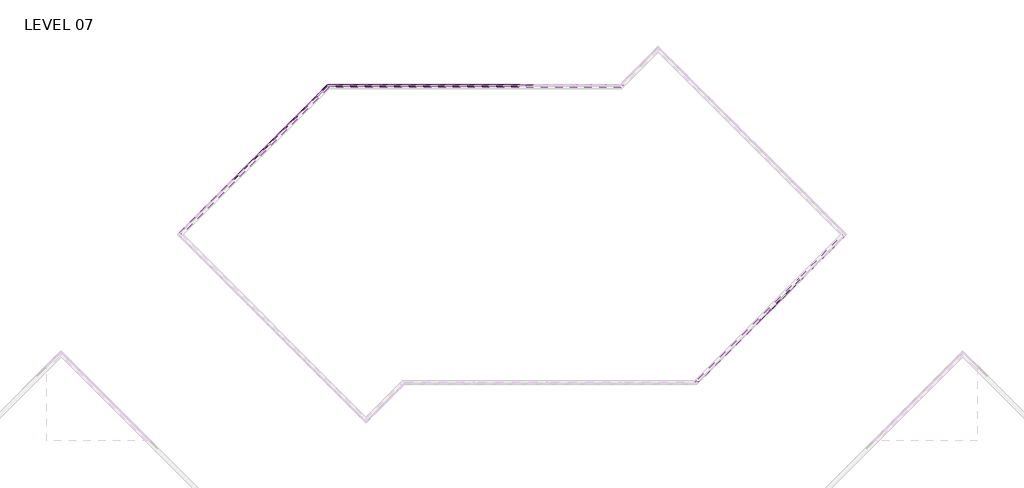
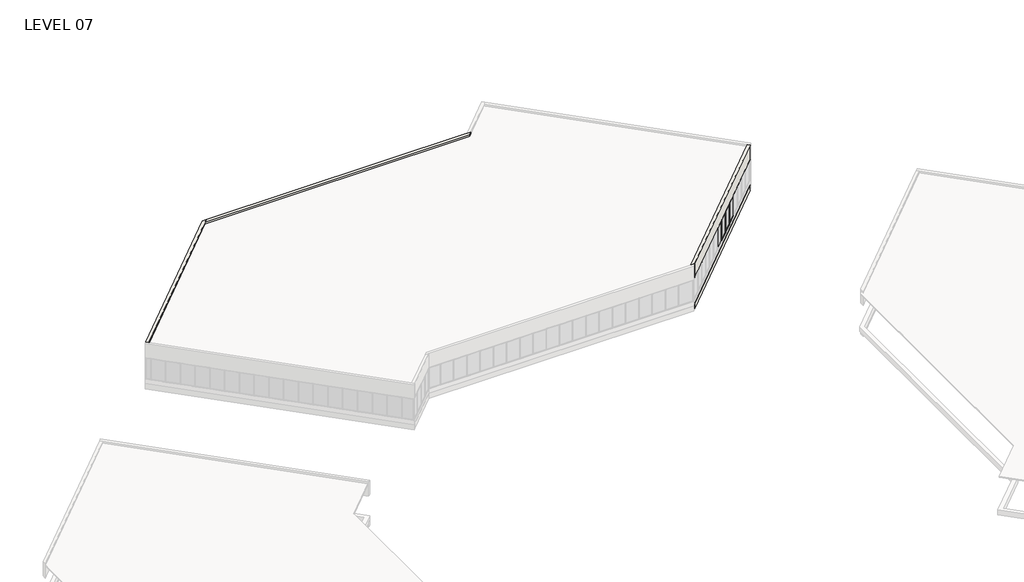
# One storey, part 15 of 18: 77 members, 27 plates, 6 walls.
"""IFC4 building model written with IfcOpenShell, lengths in millimetres."""

from ifc_helpers import new_model, si_unit, origin, place, context, project, spatial, faceted_brep, transform, mapped, element, save
from components import member_5247f267, member_e44af9ab, member_800970d4, member_1bd862b2, member_7ca0f77f, plate_67294edd, plate_aaac5d3d, plate_bbcbcabf, plate_3fb62afd, plate_e0fd5134

model = new_model("IFC4")

# Units and contexts
model_context = context("Model", 3, world=origin())
ifc_project = project(units=[si_unit("LENGTHUNIT", "METRE", prefix="MILLI")], contexts=[model_context])

# Site, building, storey
site = spatial("IfcSite", under=ifc_project)
building = spatial("IfcBuilding", under=site)
storey = spatial("IfcBuildingStorey", under=building, Name="LEVEL 07", Elevation=23368.0)

# Members
placement = place(None, origin())
member_shape = member_5247f267(model_context)
element("IfcMember", 1, ObjectType="Rectangular Mullion : 2\" x 4.5\" rectangular", at=placement, inside=storey, context=model_context, shape_type="MappedRepresentation", body=[
    mapped(member_shape, transform((30562.55, 120127.9523049, 23368.0), x_axis=(0.0, 0.0, -1.0), y_axis=(0.0, 1.0, 0.0), z_axis=(1.0, 0.0, 0.0))),
])
element("IfcMember", 2, ObjectType="Rectangular Mullion : 2\" x 4.5\" rectangular", at=placement, inside=storey, context=model_context, shape_type="MappedRepresentation", body=[
    mapped(member_shape, transform((29038.55, 120127.9523049, 23368.0), x_axis=(0.0, 0.0, -1.0), y_axis=(0.0, 1.0, 0.0), z_axis=(1.0, 0.0, 0.0))),
])
element("IfcMember", 3, ObjectType="Rectangular Mullion : 2\" x 4.5\" rectangular", at=placement, inside=storey, context=model_context, shape_type="MappedRepresentation", body=[
    mapped(member_shape, transform((27514.55, 120127.9523049, 23368.0), x_axis=(0.0, 0.0, -1.0), y_axis=(0.0, 1.0, 0.0), z_axis=(1.0, 0.0, 0.0))),
])
element("IfcMember", 4, ObjectType="Rectangular Mullion : 2\" x 4.5\" rectangular", at=placement, inside=storey, context=model_context, shape_type="MappedRepresentation", body=[
    mapped(member_shape, transform((24466.55, 120127.9523049, 23368.0), x_axis=(0.0, 0.0, -1.0), y_axis=(0.0, 1.0, 0.0), z_axis=(1.0, 0.0, 0.0))),
])
element("IfcMember", 5, ObjectType="Rectangular Mullion : 2\" x 4.5\" rectangular", at=placement, inside=storey, context=model_context, shape_type="MappedRepresentation", body=[
    mapped(member_shape, transform((22942.55, 120127.9523049, 23368.0), x_axis=(0.0, 0.0, -1.0), y_axis=(0.0, 1.0, 0.0), z_axis=(1.0, 0.0, 0.0))),
])
element("IfcMember", 6, ObjectType="Rectangular Mullion : 2\" x 4.5\" rectangular", at=placement, inside=storey, context=model_context, shape_type="MappedRepresentation", body=[
    mapped(member_shape, transform((19894.55, 120127.9523049, 23368.0), x_axis=(0.0, 0.0, -1.0), y_axis=(0.0, 1.0, 0.0), z_axis=(1.0, 0.0, 0.0))),
])
element("IfcMember", 7, ObjectType="Rectangular Mullion : 2\" x 4.5\" rectangular", at=placement, inside=storey, context=model_context, shape_type="MappedRepresentation", body=[
    mapped(member_shape, transform((15322.55, 120127.9523049, 23368.0), x_axis=(0.0, 0.0, -1.0), y_axis=(0.0, 1.0, 0.0), z_axis=(1.0, 0.0, 0.0))),
])
element("IfcMember", 8, ObjectType="Rectangular Mullion : 2\" x 4.5\" rectangular", at=placement, inside=storey, context=model_context, shape_type="MappedRepresentation", body=[
    mapped(member_shape, transform((13798.55, 120127.9523049, 23368.0), x_axis=(0.0, 0.0, -1.0), y_axis=(0.0, 1.0, 0.0), z_axis=(1.0, 0.0, 0.0))),
])
element("IfcMember", 9, ObjectType="Rectangular Mullion : 2\" x 4.5\" rectangular", at=placement, inside=storey, context=model_context, shape_type="MappedRepresentation", body=[
    mapped(member_shape, transform((21418.55, 120127.9523049, 23368.0), x_axis=(0.0, 0.0, -1.0), y_axis=(0.0, 1.0, 0.0), z_axis=(1.0, 0.0, 0.0))),
])
element("IfcMember", 10, ObjectType="Rectangular Mullion : 2\" x 4.5\" rectangular", at=placement, inside=storey, context=model_context, shape_type="MappedRepresentation", body=[
    mapped(member_shape, transform((25990.55, 120127.9523049, 23368.0), x_axis=(0.0, 0.0, -1.0), y_axis=(0.0, 1.0, 0.0), z_axis=(1.0, 0.0, 0.0))),
])
element("IfcMember", 11, ObjectType="Rectangular Mullion : 2\" x 4.5\" rectangular", at=placement, inside=storey, context=model_context, shape_type="MappedRepresentation", body=[
    mapped(member_shape, transform((18370.55, 120127.9523049, 23368.0), x_axis=(0.0, 0.0, -1.0), y_axis=(0.0, 1.0, 0.0), z_axis=(1.0, 0.0, 0.0))),
])
element("IfcMember", 12, ObjectType="Rectangular Mullion : 2\" x 4.5\" rectangular", at=placement, inside=storey, context=model_context, shape_type="MappedRepresentation", body=[
    mapped(member_shape, transform((16846.55, 120127.9523049, 23368.0), x_axis=(0.0, 0.0, -1.0), y_axis=(0.0, 1.0, 0.0), z_axis=(1.0, 0.0, 0.0))),
])
element("IfcMember", 13, ObjectType="Rectangular Mullion : 2\" x 4.5\" rectangular", at=placement, inside=storey, context=model_context, shape_type="MappedRepresentation", body=[
    mapped(member_shape, transform((9397.6593581, 118915.3677986, 23368.0), x_axis=(0.0, 0.0, -1.0), y_axis=(-0.7071067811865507, 0.7071067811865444, 0.0), z_axis=(0.7071067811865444, 0.7071067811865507, 0.0))),
])
element("IfcMember", 14, ObjectType="Rectangular Mullion : 2\" x 4.5\" rectangular", at=placement, inside=storey, context=model_context, shape_type="MappedRepresentation", body=[
    mapped(member_shape, transform((8320.0286235, 117837.7370641, 23368.0), x_axis=(0.0, 0.0, -1.0), y_axis=(-0.7071067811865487, 0.7071067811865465, 0.0), z_axis=(0.7071067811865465, 0.7071067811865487, 0.0))),
])
element("IfcMember", 15, ObjectType="Rectangular Mullion : 2\" x 4.5\" rectangular", at=placement, inside=storey, context=model_context, shape_type="MappedRepresentation", body=[
    mapped(member_shape, transform((7242.397889, 116760.1063296, 23368.0), x_axis=(0.0, 0.0, -1.0), y_axis=(-0.7071067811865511, 0.707106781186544, 0.0), z_axis=(0.707106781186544, 0.7071067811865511, 0.0))),
])
element("IfcMember", 16, ObjectType="Rectangular Mullion : 2\" x 4.5\" rectangular", at=placement, inside=storey, context=model_context, shape_type="MappedRepresentation", body=[
    mapped(member_shape, transform((6164.7671545, 115682.475595, 23368.0), x_axis=(0.0, 0.0, -1.0), y_axis=(-0.7071067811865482, 0.7071067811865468, 0.0), z_axis=(0.7071067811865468, 0.7071067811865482, 0.0))),
])
element("IfcMember", 17, ObjectType="Rectangular Mullion : 2\" x 4.5\" rectangular", at=placement, inside=storey, context=model_context, shape_type="MappedRepresentation", body=[
    mapped(member_shape, transform((4009.5056854, 113527.214126, 23368.0), x_axis=(0.0, 0.0, -1.0), y_axis=(-0.7071067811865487, 0.7071067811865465, 0.0), z_axis=(0.7071067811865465, 0.7071067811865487, 0.0))),
])
element("IfcMember", 18, ObjectType="Rectangular Mullion : 2\" x 4.5\" rectangular", at=placement, inside=storey, context=model_context, shape_type="MappedRepresentation", body=[
    mapped(member_shape, transform((2931.8749509, 112449.5833914, 23368.0), x_axis=(0.0, 0.0, -1.0), y_axis=(-0.7071067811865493, 0.7071067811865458, 0.0), z_axis=(0.7071067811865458, 0.7071067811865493, 0.0))),
])
element("IfcMember", 19, ObjectType="Rectangular Mullion : 2\" x 4.5\" rectangular", at=placement, inside=storey, context=model_context, shape_type="MappedRepresentation", body=[
    mapped(member_shape, transform((1854.2442164, 111371.9526569, 23368.0), x_axis=(0.0, 0.0, -1.0), y_axis=(-0.7071067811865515, 0.7071067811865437, 0.0), z_axis=(0.7071067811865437, 0.7071067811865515, 0.0))),
])
element("IfcMember", 20, ObjectType="Rectangular Mullion : 2\" x 4.5\" rectangular", at=placement, inside=storey, context=model_context, shape_type="MappedRepresentation", body=[
    mapped(member_shape, transform((5087.1364199, 114604.8448605, 23368.0), x_axis=(0.0, 0.0, -1.0), y_axis=(-0.7071067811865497, 0.7071067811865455, 0.0), z_axis=(0.7071067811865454, 0.7071067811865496, 0.0))),
])
element("IfcMember", 21, ObjectType="Rectangular Mullion : 2\" x 4.5\" rectangular", at=placement, inside=storey, context=model_context, shape_type="MappedRepresentation", body=[
    mapped(member_shape, transform((56719.8907816, 96634.0369509, 23368.0), x_axis=(0.0, 0.0, -1.0), y_axis=(0.7071067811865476, -0.7071067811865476, 0.0), z_axis=(-0.7071067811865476, -0.7071067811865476, 0.0))),
])
element("IfcMember", 22, ObjectType="Rectangular Mullion : 2\" x 4.5\" rectangular", at=placement, inside=storey, context=model_context, shape_type="MappedRepresentation", body=[
    mapped(member_shape, transform((57797.5067145, 97711.6528837, 23368.0), x_axis=(0.0, 0.0, -1.0), y_axis=(0.7071067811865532, -0.7071067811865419, 0.0), z_axis=(-0.7071067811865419, -0.7071067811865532, 0.0))),
])
element("IfcMember", 23, ObjectType="Rectangular Mullion : 2\" x 4.5\" rectangular", at=placement, inside=storey, context=model_context, shape_type="MappedRepresentation", body=[
    mapped(member_shape, transform((58875.1226473, 98789.2688165, 23368.0), x_axis=(0.0, 0.0, -1.0), y_axis=(0.7071067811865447, -0.7071067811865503, 0.0), z_axis=(-0.7071067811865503, -0.7071067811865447, 0.0))),
])
element("IfcMember", 24, ObjectType="Rectangular Mullion : 2\" x 4.5\" rectangular", at=placement, inside=storey, context=model_context, shape_type="MappedRepresentation", body=[
    mapped(member_shape, transform((30613.35, 120127.9523049, 25958.8), x_axis=(0.0, 0.0, 1.0), y_axis=(0.0, 1.0, 0.0), z_axis=(-1.0, 0.0, 0.0))),
])
element("IfcMember", 25, ObjectType="Rectangular Mullion : 2\" x 4.5\" rectangular", at=placement, inside=storey, context=model_context, shape_type="MappedRepresentation", body=[
    mapped(member_shape, transform((29089.35, 120127.9523049, 25958.8), x_axis=(0.0, 0.0, 1.0), y_axis=(0.0, 1.0, 0.0), z_axis=(-1.0, 0.0, 0.0))),
])
element("IfcMember", 26, ObjectType="Rectangular Mullion : 2\" x 4.5\" rectangular", at=placement, inside=storey, context=model_context, shape_type="MappedRepresentation", body=[
    mapped(member_shape, transform((27565.35, 120127.9523049, 25958.8), x_axis=(0.0, 0.0, 1.0), y_axis=(0.0, 1.0, 0.0), z_axis=(-1.0, 0.0, 0.0))),
])
element("IfcMember", 27, ObjectType="Rectangular Mullion : 2\" x 4.5\" rectangular", at=placement, inside=storey, context=model_context, shape_type="MappedRepresentation", body=[
    mapped(member_shape, transform((24517.35, 120127.9523049, 25958.8), x_axis=(0.0, 0.0, 1.0), y_axis=(0.0, 1.0, 0.0), z_axis=(-1.0, 0.0, 0.0))),
])
element("IfcMember", 28, ObjectType="Rectangular Mullion : 2\" x 4.5\" rectangular", at=placement, inside=storey, context=model_context, shape_type="MappedRepresentation", body=[
    mapped(member_shape, transform((22993.35, 120127.9523049, 25958.8), x_axis=(0.0, 0.0, 1.0), y_axis=(0.0, 1.0, 0.0), z_axis=(-1.0, 0.0, 0.0))),
])
element("IfcMember", 29, ObjectType="Rectangular Mullion : 2\" x 4.5\" rectangular", at=placement, inside=storey, context=model_context, shape_type="MappedRepresentation", body=[
    mapped(member_shape, transform((19945.35, 120127.9523049, 25958.8), x_axis=(0.0, 0.0, 1.0), y_axis=(0.0, 1.0, 0.0), z_axis=(-1.0, 0.0, 0.0))),
])
element("IfcMember", 30, ObjectType="Rectangular Mullion : 2\" x 4.5\" rectangular", at=placement, inside=storey, context=model_context, shape_type="MappedRepresentation", body=[
    mapped(member_shape, transform((15373.35, 120127.9523049, 25958.8), x_axis=(0.0, 0.0, 1.0), y_axis=(0.0, 1.0, 0.0), z_axis=(-1.0, 0.0, 0.0))),
])
element("IfcMember", 31, ObjectType="Rectangular Mullion : 2\" x 4.5\" rectangular", at=placement, inside=storey, context=model_context, shape_type="MappedRepresentation", body=[
    mapped(member_shape, transform((13849.35, 120127.9523049, 25958.8), x_axis=(0.0, 0.0, 1.0), y_axis=(0.0, 1.0, 0.0), z_axis=(-1.0, 0.0, 0.0))),
])
element("IfcMember", 32, ObjectType="Rectangular Mullion : 2\" x 4.5\" rectangular", at=placement, inside=storey, context=model_context, shape_type="MappedRepresentation", body=[
    mapped(member_shape, transform((21469.35, 120127.9523049, 25958.8), x_axis=(0.0, 0.0, 1.0), y_axis=(0.0, 1.0, 0.0), z_axis=(-1.0, 0.0, 0.0))),
])
element("IfcMember", 33, ObjectType="Rectangular Mullion : 2\" x 4.5\" rectangular", at=placement, inside=storey, context=model_context, shape_type="MappedRepresentation", body=[
    mapped(member_shape, transform((26041.35, 120127.9523049, 25958.8), x_axis=(0.0, 0.0, 1.0), y_axis=(0.0, 1.0, 0.0), z_axis=(-1.0, 0.0, 0.0))),
])
element("IfcMember", 34, ObjectType="Rectangular Mullion : 2\" x 4.5\" rectangular", at=placement, inside=storey, context=model_context, shape_type="MappedRepresentation", body=[
    mapped(member_shape, transform((18421.35, 120127.9523049, 25958.8), x_axis=(0.0, 0.0, 1.0), y_axis=(0.0, 1.0, 0.0), z_axis=(-1.0, 0.0, 0.0))),
])
element("IfcMember", 35, ObjectType="Rectangular Mullion : 2\" x 4.5\" rectangular", at=placement, inside=storey, context=model_context, shape_type="MappedRepresentation", body=[
    mapped(member_shape, transform((16897.35, 120127.9523049, 25958.8), x_axis=(0.0, 0.0, 1.0), y_axis=(0.0, 1.0, 0.0), z_axis=(-1.0, 0.0, 0.0))),
])
element("IfcMember", 36, ObjectType="Rectangular Mullion : 2\" x 4.5\" rectangular", at=placement, inside=storey, context=model_context, shape_type="MappedRepresentation", body=[
    mapped(member_shape, transform((12325.35, 120127.9523049, 25958.8), x_axis=(0.0, 0.0, 1.0), y_axis=(0.0, 1.0, 0.0), z_axis=(-1.0, 0.0, 0.0))),
])
element("IfcMember", 37, ObjectType="Rectangular Mullion : 2\" x 4.5\" rectangular", at=placement, inside=storey, context=model_context, shape_type="MappedRepresentation", body=[
    mapped(member_shape, transform((8355.949648, 117873.6580886, 25958.8), x_axis=(0.0, 0.0, 1.0), y_axis=(-0.7071067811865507, 0.7071067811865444, 0.0), z_axis=(-0.7071067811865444, -0.7071067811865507, 0.0))),
])
element("IfcMember", 38, ObjectType="Rectangular Mullion : 2\" x 4.5\" rectangular", at=placement, inside=storey, context=model_context, shape_type="MappedRepresentation", body=[
    mapped(member_shape, transform((7278.3189135, 116796.027354, 25958.8), x_axis=(0.0, 0.0, 1.0), y_axis=(-0.7071067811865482, 0.7071067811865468, 0.0), z_axis=(-0.7071067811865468, -0.7071067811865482, 0.0))),
])
element("IfcMember", 39, ObjectType="Rectangular Mullion : 2\" x 4.5\" rectangular", at=placement, inside=storey, context=model_context, shape_type="MappedRepresentation", body=[
    mapped(member_shape, transform((6200.688179, 115718.3966195, 25958.8), x_axis=(0.0, 0.0, 1.0), y_axis=(-0.7071067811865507, 0.7071067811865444, 0.0), z_axis=(-0.7071067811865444, -0.7071067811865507, 0.0))),
])
element("IfcMember", 40, ObjectType="Rectangular Mullion : 2\" x 4.5\" rectangular", at=placement, inside=storey, context=model_context, shape_type="MappedRepresentation", body=[
    mapped(member_shape, transform((4045.4267099, 113563.1351505, 25958.8), x_axis=(0.0, 0.0, 1.0), y_axis=(-0.7071067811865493, 0.7071067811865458, 0.0), z_axis=(-0.7071067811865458, -0.7071067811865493, 0.0))),
])
element("IfcMember", 41, ObjectType="Rectangular Mullion : 2\" x 4.5\" rectangular", at=placement, inside=storey, context=model_context, shape_type="MappedRepresentation", body=[
    mapped(member_shape, transform((2967.7959754, 112485.5044159, 25958.8), x_axis=(0.0, 0.0, 1.0), y_axis=(-0.7071067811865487, 0.7071067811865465, 0.0), z_axis=(-0.7071067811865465, -0.7071067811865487, 0.0))),
])
element("IfcMember", 42, ObjectType="Rectangular Mullion : 2\" x 4.5\" rectangular", at=placement, inside=storey, context=model_context, shape_type="MappedRepresentation", body=[
    mapped(member_shape, transform((1890.1652408, 111407.8736814, 25958.8), x_axis=(0.0, 0.0, 1.0), y_axis=(-0.7071067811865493, 0.7071067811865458, 0.0), z_axis=(-0.7071067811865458, -0.7071067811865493, 0.0))),
])
element("IfcMember", 43, ObjectType="Rectangular Mullion : 2\" x 4.5\" rectangular", at=placement, inside=storey, context=model_context, shape_type="MappedRepresentation", body=[
    mapped(member_shape, transform((5123.0574444, 114640.765885, 25958.8), x_axis=(0.0, 0.0, 1.0), y_axis=(-0.707106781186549, 0.7071067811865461, 0.0), z_axis=(-0.707106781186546, -0.7071067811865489, 0.0))),
])
element("IfcMember", 44, ObjectType="Rectangular Mullion : 2\" x 4.5\" rectangular", at=placement, inside=storey, context=model_context, shape_type="MappedRepresentation", body=[
    mapped(member_shape, transform((56683.9697572, 96598.1159265, 25958.8), x_axis=(0.0, 0.0, 1.0), y_axis=(0.7071067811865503, -0.7071067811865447, 0.0), z_axis=(0.7071067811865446, 0.7071067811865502, 0.0))),
])
element("IfcMember", 45, ObjectType="Rectangular Mullion : 2\" x 4.5\" rectangular", at=placement, inside=storey, context=model_context, shape_type="MappedRepresentation", body=[
    mapped(member_shape, transform((57761.58569, 97675.7318593, 25958.8), x_axis=(0.0, 0.0, 1.0), y_axis=(0.7071067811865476, -0.7071067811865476, 0.0), z_axis=(0.7071067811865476, 0.7071067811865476, 0.0))),
])
element("IfcMember", 46, ObjectType="Rectangular Mullion : 2\" x 4.5\" rectangular", at=placement, inside=storey, context=model_context, shape_type="MappedRepresentation", body=[
    mapped(member_shape, transform((58839.2016228, 98753.3477921, 25958.8), x_axis=(0.0, 0.0, 1.0), y_axis=(0.7071067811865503, -0.7071067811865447, 0.0), z_axis=(0.7071067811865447, 0.7071067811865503, 0.0))),
])
member_2_shape = member_e44af9ab(model_context)
element("IfcMember", 47, ObjectType="Rectangular Mullion : 2\" x 4.5\" rectangular", at=placement, inside=storey, context=model_context, shape_type="MappedRepresentation", body=[
    mapped(member_2_shape, transform((30587.95, 120127.9523049, 23368.0), x_axis=(-1.0, 0.0, 0.0), y_axis=(0.0, 1.0, 0.0), z_axis=(0.0, 0.0, -1.0))),
])
element("IfcMember", 48, ObjectType="Rectangular Mullion : 2\" x 4.5\" rectangular", at=placement, inside=storey, context=model_context, shape_type="MappedRepresentation", body=[
    mapped(member_2_shape, transform((29063.95, 120127.9523049, 23368.0), x_axis=(-1.0, 0.0, 0.0), y_axis=(0.0, 1.0, 0.0), z_axis=(0.0, 0.0, -1.0))),
])
element("IfcMember", 49, ObjectType="Rectangular Mullion : 2\" x 4.5\" rectangular", at=placement, inside=storey, context=model_context, shape_type="MappedRepresentation", body=[
    mapped(member_2_shape, transform((27539.95, 120127.9523049, 23368.0), x_axis=(-1.0, 0.0, 0.0), y_axis=(0.0, 1.0, 0.0), z_axis=(0.0, 0.0, -1.0))),
])
element("IfcMember", 50, ObjectType="Rectangular Mullion : 2\" x 4.5\" rectangular", at=placement, inside=storey, context=model_context, shape_type="MappedRepresentation", body=[
    mapped(member_2_shape, transform((24491.95, 120127.9523049, 23368.0), x_axis=(-1.0, 0.0, 0.0), y_axis=(0.0, 1.0, 0.0), z_axis=(0.0, 0.0, -1.0))),
])
element("IfcMember", 51, ObjectType="Rectangular Mullion : 2\" x 4.5\" rectangular", at=placement, inside=storey, context=model_context, shape_type="MappedRepresentation", body=[
    mapped(member_2_shape, transform((22967.95, 120127.9523049, 23368.0), x_axis=(-1.0, 0.0, 0.0), y_axis=(0.0, 1.0, 0.0), z_axis=(0.0, 0.0, -1.0))),
])
element("IfcMember", 52, ObjectType="Rectangular Mullion : 2\" x 4.5\" rectangular", at=placement, inside=storey, context=model_context, shape_type="MappedRepresentation", body=[
    mapped(member_2_shape, transform((19919.95, 120127.9523049, 23368.0), x_axis=(-1.0, 0.0, 0.0), y_axis=(0.0, 1.0, 0.0), z_axis=(0.0, 0.0, -1.0))),
])
element("IfcMember", 53, ObjectType="Rectangular Mullion : 2\" x 4.5\" rectangular", at=placement, inside=storey, context=model_context, shape_type="MappedRepresentation", body=[
    mapped(member_2_shape, transform((15347.95, 120127.9523049, 23368.0), x_axis=(-1.0, 0.0, 0.0), y_axis=(0.0, 1.0, 0.0), z_axis=(0.0, 0.0, -1.0))),
])
element("IfcMember", 54, ObjectType="Rectangular Mullion : 2\" x 4.5\" rectangular", at=placement, inside=storey, context=model_context, shape_type="MappedRepresentation", body=[
    mapped(member_2_shape, transform((13823.95, 120127.9523049, 23368.0), x_axis=(-1.0, 0.0, 0.0), y_axis=(0.0, 1.0, 0.0), z_axis=(0.0, 0.0, -1.0))),
])
element("IfcMember", 55, ObjectType="Rectangular Mullion : 2\" x 4.5\" rectangular", at=placement, inside=storey, context=model_context, shape_type="MappedRepresentation", body=[
    mapped(member_2_shape, transform((21443.95, 120127.9523049, 23368.0), x_axis=(-1.0, 0.0, 0.0), y_axis=(0.0, 1.0, 0.0), z_axis=(0.0, 0.0, -1.0))),
])
element("IfcMember", 56, ObjectType="Rectangular Mullion : 2\" x 4.5\" rectangular", at=placement, inside=storey, context=model_context, shape_type="MappedRepresentation", body=[
    mapped(member_2_shape, transform((26015.95, 120127.9523049, 23368.0), x_axis=(-1.0, 0.0, 0.0), y_axis=(0.0, 1.0, 0.0), z_axis=(0.0, 0.0, -1.0))),
])
element("IfcMember", 57, ObjectType="Rectangular Mullion : 2\" x 4.5\" rectangular", at=placement, inside=storey, context=model_context, shape_type="MappedRepresentation", body=[
    mapped(member_2_shape, transform((18395.95, 120127.9523049, 23368.0), x_axis=(-1.0, 0.0, 0.0), y_axis=(0.0, 1.0, 0.0), z_axis=(0.0, 0.0, -1.0))),
])
element("IfcMember", 58, ObjectType="Rectangular Mullion : 2\" x 4.5\" rectangular", at=placement, inside=storey, context=model_context, shape_type="MappedRepresentation", body=[
    mapped(member_2_shape, transform((16871.95, 120127.9523049, 23368.0), x_axis=(-1.0, 0.0, 0.0), y_axis=(0.0, 1.0, 0.0), z_axis=(0.0, 0.0, -1.0))),
])
element("IfcMember", 59, ObjectType="Rectangular Mullion : 2\" x 4.5\" rectangular", at=placement, inside=storey, context=model_context, shape_type="MappedRepresentation", body=[
    mapped(member_2_shape, transform((12299.95, 120127.9523049, 23368.0), x_axis=(-1.0, 0.0, 0.0), y_axis=(0.0, 1.0, 0.0), z_axis=(0.0, 0.0, -1.0))),
])
element("IfcMember", 60, ObjectType="Rectangular Mullion : 2\" x 4.5\" rectangular", at=placement, inside=storey, context=model_context, shape_type="MappedRepresentation", body=[
    mapped(member_2_shape, transform((9415.6198703, 118933.3283108, 23368.0), x_axis=(-0.7071067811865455, -0.7071067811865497, 0.0), y_axis=(-0.7071067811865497, 0.7071067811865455, 0.0), z_axis=(0.0, 0.0, -1.0))),
])
element("IfcMember", 61, ObjectType="Rectangular Mullion : 2\" x 4.5\" rectangular", at=placement, inside=storey, context=model_context, shape_type="MappedRepresentation", body=[
    mapped(member_2_shape, transform((8337.9891358, 117855.6975763, 23368.0), x_axis=(-0.7071067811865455, -0.7071067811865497, 0.0), y_axis=(-0.7071067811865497, 0.7071067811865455, 0.0), z_axis=(0.0, 0.0, -1.0))),
])
element("IfcMember", 62, ObjectType="Rectangular Mullion : 2\" x 4.5\" rectangular", at=placement, inside=storey, context=model_context, shape_type="MappedRepresentation", body=[
    mapped(member_2_shape, transform((7260.3584012, 116778.0668418, 23368.0), x_axis=(-0.7071067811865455, -0.7071067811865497, 0.0), y_axis=(-0.7071067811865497, 0.7071067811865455, 0.0), z_axis=(0.0, 0.0, -1.0))),
])
element("IfcMember", 63, ObjectType="Rectangular Mullion : 2\" x 4.5\" rectangular", at=placement, inside=storey, context=model_context, shape_type="MappedRepresentation", body=[
    mapped(member_2_shape, transform((6182.7276667, 115700.4361073, 23368.0), x_axis=(-0.7071067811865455, -0.7071067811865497, 0.0), y_axis=(-0.7071067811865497, 0.7071067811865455, 0.0), z_axis=(0.0, 0.0, -1.0))),
])
element("IfcMember", 64, ObjectType="Rectangular Mullion : 2\" x 4.5\" rectangular", at=placement, inside=storey, context=model_context, shape_type="MappedRepresentation", body=[
    mapped(member_2_shape, transform((4027.4661977, 113545.1746382, 23368.0), x_axis=(-0.7071067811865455, -0.7071067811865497, 0.0), y_axis=(-0.7071067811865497, 0.7071067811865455, 0.0), z_axis=(0.0, 0.0, -1.0))),
])
element("IfcMember", 65, ObjectType="Rectangular Mullion : 2\" x 4.5\" rectangular", at=placement, inside=storey, context=model_context, shape_type="MappedRepresentation", body=[
    mapped(member_2_shape, transform((2949.8354631, 112467.5439037, 23368.0), x_axis=(-0.7071067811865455, -0.7071067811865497, 0.0), y_axis=(-0.7071067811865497, 0.7071067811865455, 0.0), z_axis=(0.0, 0.0, -1.0))),
])
element("IfcMember", 66, ObjectType="Rectangular Mullion : 2\" x 4.5\" rectangular", at=placement, inside=storey, context=model_context, shape_type="MappedRepresentation", body=[
    mapped(member_2_shape, transform((1872.2047286, 111389.9131692, 23368.0), x_axis=(-0.7071067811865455, -0.7071067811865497, 0.0), y_axis=(-0.7071067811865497, 0.7071067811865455, 0.0), z_axis=(0.0, 0.0, -1.0))),
])
element("IfcMember", 67, ObjectType="Rectangular Mullion : 2\" x 4.5\" rectangular", at=placement, inside=storey, context=model_context, shape_type="MappedRepresentation", body=[
    mapped(member_2_shape, transform((5105.0969322, 114622.8053727, 23368.0), x_axis=(-0.7071067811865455, -0.7071067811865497, 0.0), y_axis=(-0.7071067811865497, 0.7071067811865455, 0.0), z_axis=(0.0, 0.0, -1.0))),
])
element("IfcMember", 68, ObjectType="Rectangular Mullion : 2\" x 4.5\" rectangular", at=placement, inside=storey, context=model_context, shape_type="MappedRepresentation", body=[
    mapped(member_2_shape, transform((794.5739941, 110312.2824346, 23368.0), x_axis=(-0.7071067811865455, -0.7071067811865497, 0.0), y_axis=(-0.7071067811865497, 0.7071067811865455, 0.0), z_axis=(0.0, 0.0, -1.0))),
])
element("IfcMember", 69, ObjectType="Rectangular Mullion : 2\" x 4.5\" rectangular", at=placement, inside=storey, context=model_context, shape_type="MappedRepresentation", body=[
    mapped(member_2_shape, transform((56701.9302694, 96616.0764387, 23368.0), x_axis=(0.7071067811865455, 0.7071067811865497, 0.0), y_axis=(0.7071067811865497, -0.7071067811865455, 0.0), z_axis=(0.0, 0.0, -1.0))),
])
element("IfcMember", 70, ObjectType="Rectangular Mullion : 2\" x 4.5\" rectangular", at=placement, inside=storey, context=model_context, shape_type="MappedRepresentation", body=[
    mapped(member_2_shape, transform((57779.5462022, 97693.6923715, 23368.0), x_axis=(0.7071067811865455, 0.7071067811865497, 0.0), y_axis=(0.7071067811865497, -0.7071067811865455, 0.0), z_axis=(0.0, 0.0, -1.0))),
])
element("IfcMember", 71, ObjectType="Rectangular Mullion : 2\" x 4.5\" rectangular", at=placement, inside=storey, context=model_context, shape_type="MappedRepresentation", body=[
    mapped(member_2_shape, transform((58857.162135, 98771.3083043, 23368.0), x_axis=(0.7071067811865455, 0.7071067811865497, 0.0), y_axis=(0.7071067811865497, -0.7071067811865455, 0.0), z_axis=(0.0, 0.0, -1.0))),
])
member_3_shape = member_800970d4(model_context)
element("IfcMember", 72, ObjectType="Rectangular Mullion : 2\" x 4.5\" rectangular", at=placement, inside=storey, context=model_context, shape_type="MappedRepresentation", body=[
    mapped(member_3_shape, transform((10610.2438644, 120127.9523049, 23368.0), x_axis=(-1.0, 0.0, 0.0), y_axis=(0.0, 1.0, 0.0), z_axis=(0.0, 0.0, -1.0))),
])
element("IfcMember", 73, ObjectType="Rectangular Mullion : 2\" x 4.5\" rectangular", at=placement, inside=storey, context=model_context, shape_type="MappedRepresentation", body=[
    mapped(member_3_shape, transform((10610.2438644, 120127.9523049, 25958.8), x_axis=(0.7071067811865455, 0.7071067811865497, 0.0), y_axis=(-0.7071067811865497, 0.7071067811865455, 0.0), z_axis=(0.0, 0.0, 1.0))),
])
member_4_shape = member_1bd862b2(model_context)
element("IfcMember", 74, ObjectType="Rectangular Mullion : 2\" x 4.5\" rectangular", at=placement, inside=storey, context=model_context, shape_type="MappedRepresentation", body=[
    mapped(member_4_shape, transform((10661.0438644, 120127.9523049, 25958.8), x_axis=(0.0, 0.0, 1.0), y_axis=(0.0, 1.0, 0.0), z_axis=(-1.0, 0.0, 0.0))),
])
element("IfcMember", 75, ObjectType="Rectangular Mullion : 2\" x 4.5\" rectangular", at=placement, inside=storey, context=model_context, shape_type="MappedRepresentation", body=[
    mapped(member_4_shape, transform((12274.55, 120127.9523049, 23368.0), x_axis=(0.0, 0.0, -1.0), y_axis=(0.0, 1.0, 0.0), z_axis=(1.0, 0.0, 0.0))),
])
member_5_shape = member_7ca0f77f(model_context)
element("IfcMember", 76, ObjectType="Rectangular Mullion : 2\" x 4.5\" rectangular", at=placement, inside=storey, context=model_context, shape_type="MappedRepresentation", body=[
    mapped(member_5_shape, transform((9433.5803825, 118951.2888231, 25958.8), x_axis=(0.0, 0.0, 1.0), y_axis=(-0.7071067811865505, 0.7071067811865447, 0.0), z_axis=(-0.7071067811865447, -0.7071067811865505, 0.0))),
])
element("IfcMember", 77, ObjectType="Rectangular Mullion : 2\" x 4.5\" rectangular", at=placement, inside=storey, context=model_context, shape_type="MappedRepresentation", body=[
    mapped(member_5_shape, transform((10574.3228399, 120092.0312804, 23368.0), x_axis=(0.0, 0.0, -1.0), y_axis=(-0.7071067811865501, 0.7071067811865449, 0.0), z_axis=(0.7071067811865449, 0.7071067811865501, 0.0))),
])

# Plates
plate_shape = plate_67294edd(model_context)
element("IfcPlate", 78, ObjectType="System Panel : 1/4\" Glass", at=placement, inside=storey, context=model_context, shape_type="MappedRepresentation", body=[
    mapped(plate_shape, transform((29825.95, 120127.9523049, 23418.8), x_axis=(-1.0, 0.0, 0.0), y_axis=(0.0, -1.0, 0.0), z_axis=(0.0, 0.0, 1.0))),
])
element("IfcPlate", 79, ObjectType="System Panel : 1/4\" Glass", at=placement, inside=storey, context=model_context, shape_type="MappedRepresentation", body=[
    mapped(plate_shape, transform((28301.95, 120127.9523049, 23418.8), x_axis=(-1.0, 0.0, 0.0), y_axis=(0.0, -1.0, 0.0), z_axis=(0.0, 0.0, 1.0))),
])
element("IfcPlate", 80, ObjectType="System Panel : 1/4\" Glass", at=placement, inside=storey, context=model_context, shape_type="MappedRepresentation", body=[
    mapped(plate_shape, transform((26777.95, 120127.9523049, 23418.8), x_axis=(-1.0, 0.0, 0.0), y_axis=(0.0, -1.0, 0.0), z_axis=(0.0, 0.0, 1.0))),
])
element("IfcPlate", 81, ObjectType="System Panel : 1/4\" Glass", at=placement, inside=storey, context=model_context, shape_type="MappedRepresentation", body=[
    mapped(plate_shape, transform((23729.95, 120127.9523049, 23418.8), x_axis=(-1.0, 0.0, 0.0), y_axis=(0.0, -1.0, 0.0), z_axis=(0.0, 0.0, 1.0))),
])
element("IfcPlate", 82, ObjectType="System Panel : 1/4\" Glass", at=placement, inside=storey, context=model_context, shape_type="MappedRepresentation", body=[
    mapped(plate_shape, transform((22205.95, 120127.9523049, 23418.8), x_axis=(-1.0, 0.0, 0.0), y_axis=(0.0, -1.0, 0.0), z_axis=(0.0, 0.0, 1.0))),
])
element("IfcPlate", 83, ObjectType="System Panel : 1/4\" Glass", at=placement, inside=storey, context=model_context, shape_type="MappedRepresentation", body=[
    mapped(plate_shape, transform((19157.95, 120127.9523049, 23418.8), x_axis=(-1.0, 0.0, 0.0), y_axis=(0.0, -1.0, 0.0), z_axis=(0.0, 0.0, 1.0))),
])
element("IfcPlate", 84, ObjectType="System Panel : 1/4\" Glass", at=placement, inside=storey, context=model_context, shape_type="MappedRepresentation", body=[
    mapped(plate_shape, transform((14585.95, 120127.9523049, 23418.8), x_axis=(-1.0, 0.0, 0.0), y_axis=(0.0, -1.0, 0.0), z_axis=(0.0, 0.0, 1.0))),
])
element("IfcPlate", 85, ObjectType="System Panel : 1/4\" Glass", at=placement, inside=storey, context=model_context, shape_type="MappedRepresentation", body=[
    mapped(plate_shape, transform((13061.95, 120127.9523049, 23418.8), x_axis=(-1.0, 0.0, 0.0), y_axis=(0.0, -1.0, 0.0), z_axis=(0.0, 0.0, 1.0))),
])
element("IfcPlate", 86, ObjectType="System Panel : 1/4\" Glass", at=placement, inside=storey, context=model_context, shape_type="MappedRepresentation", body=[
    mapped(plate_shape, transform((31349.95, 120127.9523049, 23418.8), x_axis=(-1.0, 0.0, 0.0), y_axis=(0.0, -1.0, 0.0), z_axis=(0.0, 0.0, 1.0))),
])
element("IfcPlate", 87, ObjectType="System Panel : 1/4\" Glass", at=placement, inside=storey, context=model_context, shape_type="MappedRepresentation", body=[
    mapped(plate_shape, transform((20681.95, 120127.9523049, 23418.8), x_axis=(-1.0, 0.0, 0.0), y_axis=(0.0, -1.0, 0.0), z_axis=(0.0, 0.0, 1.0))),
])
element("IfcPlate", 88, ObjectType="System Panel : 1/4\" Glass", at=placement, inside=storey, context=model_context, shape_type="MappedRepresentation", body=[
    mapped(plate_shape, transform((25253.95, 120127.9523049, 23418.8), x_axis=(-1.0, 0.0, 0.0), y_axis=(0.0, -1.0, 0.0), z_axis=(0.0, 0.0, 1.0))),
])
element("IfcPlate", 89, ObjectType="System Panel : 1/4\" Glass", at=placement, inside=storey, context=model_context, shape_type="MappedRepresentation", body=[
    mapped(plate_shape, transform((17633.95, 120127.9523049, 23418.8), x_axis=(-1.0, 0.0, 0.0), y_axis=(0.0, -1.0, 0.0), z_axis=(0.0, 0.0, 1.0))),
])
element("IfcPlate", 90, ObjectType="System Panel : 1/4\" Glass", at=placement, inside=storey, context=model_context, shape_type="MappedRepresentation", body=[
    mapped(plate_shape, transform((16109.95, 120127.9523049, 23418.8), x_axis=(-1.0, 0.0, 0.0), y_axis=(0.0, -1.0, 0.0), z_axis=(0.0, 0.0, 1.0))),
])
element("IfcPlate", 91, ObjectType="System Panel : 1/4\" Glass", at=placement, inside=storey, context=model_context, shape_type="MappedRepresentation", body=[
    mapped(plate_shape, transform((8876.804503, 118394.5129436, 23418.8), x_axis=(-0.7071067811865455, -0.7071067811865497, 0.0), y_axis=(0.7071067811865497, -0.7071067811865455, 0.0), z_axis=(0.0, 0.0, 1.0))),
])
element("IfcPlate", 92, ObjectType="System Panel : 1/4\" Glass", at=placement, inside=storey, context=model_context, shape_type="MappedRepresentation", body=[
    mapped(plate_shape, transform((7799.1737685, 117316.8822091, 23418.8), x_axis=(-0.7071067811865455, -0.7071067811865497, 0.0), y_axis=(0.7071067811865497, -0.7071067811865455, 0.0), z_axis=(0.0, 0.0, 1.0))),
])
element("IfcPlate", 93, ObjectType="System Panel : 1/4\" Glass", at=placement, inside=storey, context=model_context, shape_type="MappedRepresentation", body=[
    mapped(plate_shape, transform((6721.543034, 116239.2514745, 23418.8), x_axis=(-0.7071067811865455, -0.7071067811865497, 0.0), y_axis=(0.7071067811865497, -0.7071067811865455, 0.0), z_axis=(0.0, 0.0, 1.0))),
])
element("IfcPlate", 94, ObjectType="System Panel : 1/4\" Glass", at=placement, inside=storey, context=model_context, shape_type="MappedRepresentation", body=[
    mapped(plate_shape, transform((5643.9122995, 115161.62074, 23418.8), x_axis=(-0.7071067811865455, -0.7071067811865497, 0.0), y_axis=(0.7071067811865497, -0.7071067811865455, 0.0), z_axis=(0.0, 0.0, 1.0))),
])
element("IfcPlate", 95, ObjectType="System Panel : 1/4\" Glass", at=placement, inside=storey, context=model_context, shape_type="MappedRepresentation", body=[
    mapped(plate_shape, transform((3488.6508304, 113006.3592709, 23418.8), x_axis=(-0.7071067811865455, -0.7071067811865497, 0.0), y_axis=(0.7071067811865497, -0.7071067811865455, 0.0), z_axis=(0.0, 0.0, 1.0))),
])
element("IfcPlate", 96, ObjectType="System Panel : 1/4\" Glass", at=placement, inside=storey, context=model_context, shape_type="MappedRepresentation", body=[
    mapped(plate_shape, transform((2411.0200959, 111928.7285364, 23418.8), x_axis=(-0.7071067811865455, -0.7071067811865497, 0.0), y_axis=(0.7071067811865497, -0.7071067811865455, 0.0), z_axis=(0.0, 0.0, 1.0))),
])
element("IfcPlate", 97, ObjectType="System Panel : 1/4\" Glass", at=placement, inside=storey, context=model_context, shape_type="MappedRepresentation", body=[
    mapped(plate_shape, transform((1333.3893613, 110851.0978019, 23418.8), x_axis=(-0.7071067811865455, -0.7071067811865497, 0.0), y_axis=(0.7071067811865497, -0.7071067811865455, 0.0), z_axis=(0.0, 0.0, 1.0))),
])
element("IfcPlate", 98, ObjectType="System Panel : 1/4\" Glass", at=placement, inside=storey, context=model_context, shape_type="MappedRepresentation", body=[
    mapped(plate_shape, transform((4566.2815649, 114083.9900055, 23418.8), x_axis=(-0.7071067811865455, -0.7071067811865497, 0.0), y_axis=(0.7071067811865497, -0.7071067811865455, 0.0), z_axis=(0.0, 0.0, 1.0))),
])
plate_2_shape = plate_aaac5d3d(model_context)
element("IfcPlate", 99, ObjectType="System Panel : 1/4\" Glass", at=placement, inside=storey, context=model_context, shape_type="MappedRepresentation", body=[
    mapped(plate_2_shape, transform((56163.122303, 96077.2684723, 23418.8), x_axis=(0.7071067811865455, 0.7071067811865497, 0.0), y_axis=(-0.7071067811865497, 0.7071067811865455, 0.0), z_axis=(0.0, 0.0, 1.0))),
])
element("IfcPlate", 100, ObjectType="System Panel : 1/4\" Glass", at=placement, inside=storey, context=model_context, shape_type="MappedRepresentation", body=[
    mapped(plate_2_shape, transform((57240.7382358, 97154.8844051, 23418.8), x_axis=(0.7071067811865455, 0.7071067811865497, 0.0), y_axis=(-0.7071067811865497, 0.7071067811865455, 0.0), z_axis=(0.0, 0.0, 1.0))),
])
element("IfcPlate", 101, ObjectType="System Panel : 1/4\" Glass", at=placement, inside=storey, context=model_context, shape_type="MappedRepresentation", body=[
    mapped(plate_2_shape, transform((58318.3541686, 98232.5003379, 23418.8), x_axis=(0.7071067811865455, 0.7071067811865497, 0.0), y_axis=(-0.7071067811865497, 0.7071067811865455, 0.0), z_axis=(0.0, 0.0, 1.0))),
])
plate_3_shape = plate_bbcbcabf(model_context)
element("IfcPlate", 102, ObjectType="System Panel : 1/4\" Glass", at=placement, inside=storey, context=model_context, shape_type="MappedRepresentation", body=[
    mapped(plate_3_shape, transform((11467.7969322, 120127.9523049, 23418.8), x_axis=(-1.0, 0.0, 0.0), y_axis=(0.0, -1.0, 0.0), z_axis=(0.0, 0.0, 1.0))),
])
plate_4_shape = plate_3fb62afd(model_context)
element("IfcPlate", 103, ObjectType="System Panel : 1/4\" Glass", at=placement, inside=storey, context=model_context, shape_type="MappedRepresentation", body=[
    mapped(plate_4_shape, transform((10003.9516112, 119521.6600518, 23418.8), x_axis=(-0.7071067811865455, -0.7071067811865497, 0.0), y_axis=(0.7071067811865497, -0.7071067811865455, 0.0), z_axis=(0.0, 0.0, 1.0))),
])
plate_5_shape = plate_e0fd5134(model_context)
element("IfcPlate", 104, ObjectType="System Panel : 1/4\" Glass", at=placement, inside=storey, context=model_context, shape_type="MappedRepresentation", body=[
    mapped(plate_5_shape, transform((59395.9738018, 99310.1199711, 23418.8), x_axis=(0.7071067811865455, 0.7071067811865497, 0.0), y_axis=(-0.7071067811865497, 0.7071067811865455, 0.0), z_axis=(0.0, 0.0, 1.0))),
])

# Walls
element("IfcWall", 105, ObjectType="01-CONCRETE-12", at=placement, inside=storey, context=model_context, shape_type="Brep", body=[
    faceted_brep([(-4625.6011469, 104541.8773049, 22186.9), (10712.8238531, 119880.3023049, 22186.9), (11017.6238531, 120185.1023049, 22186.9), (11017.6238531, 120185.1023049, 22809.2), (10712.8238531, 119880.3023049, 22809.2), (-4625.6011469, 104541.8773049, 22809.2), (-4841.1272938, 104757.4034518, 22186.9), (-4841.1272938, 104757.4034518, 22809.2), (10586.5715593, 120185.1023049, 22809.2), (10586.5715593, 120185.1023049, 22186.9)], [[[0, 1, 2, 3, 4, 5]], [[6, 7, 8, 9]], [[2, 1, 0, 6, 9]], [[5, 4, 3, 8, 7]], [[3, 2, 9, 8]], [[0, 5, 7, 6]]]),
])
element("IfcWall", 106, ObjectType="01-CONCRETE-12", at=placement, inside=storey, context=model_context, shape_type="Brep", body=[
    faceted_brep([(10712.8238531, 119880.3023049, 22186.9), (41192.8238531, 119880.3023049, 22186.9), (41192.8238531, 119880.3023049, 22809.2), (10712.8238531, 119880.3023049, 22809.2), (11017.6238531, 120185.1023049, 22186.9), (11017.6238531, 120185.1023049, 22809.2), (41066.5715593, 120185.1023049, 22809.2), (41497.6238531, 120185.1023049, 22809.2), (41497.6238531, 120185.1023049, 22186.9), (41066.5715593, 120185.1023049, 22186.9)], [[[0, 1, 2, 3]], [[4, 5, 6, 7, 8, 9]], [[1, 0, 4, 9, 8]], [[3, 2, 7, 6, 5]], [[0, 3, 5, 4]], [[2, 1, 8, 7]]]),
])
element("IfcWall", 107, ObjectType="01-CONCRETE-12", at=placement, inside=storey, context=model_context, shape_type="Brep", body=[
    faceted_brep([(64277.5011469, 104541.8773049, 22186.9), (59975.1892204, 100239.5653784, 22186.9), (59544.1369265, 99808.5130846, 22186.9), (49228.9971714, 89493.3733294, 22186.9), (48939.0761469, 89203.4523049, 22186.9), (48939.0761469, 89203.4523049, 22809.2), (49228.9971714, 89493.3733294, 22809.2), (59544.1369265, 99808.5130846, 22809.2), (59975.1892204, 100239.5653784, 22809.2), (64277.5011469, 104541.8773049, 22809.2), (64493.0272938, 104326.351158, 22186.9), (64493.0272938, 104326.351158, 22809.2), (49370.1284407, 89203.4523049, 22809.2), (49370.1284407, 89203.4523049, 22186.9)], [[[0, 1, 2, 3, 4, 5, 6, 7, 8, 9]], [[10, 11, 12, 13]], [[4, 3, 2, 1, 0, 10, 13]], [[9, 8, 7, 6, 5, 12, 11]], [[0, 9, 11, 10]], [[5, 4, 13, 12]]]),
])
element("IfcWall", 108, ObjectType="01-CONCRETE-12", at=placement, inside=storey, context=model_context, shape_type="Brep", body=[
    faceted_brep([(-4625.6011469, 104541.8773049, 25958.8), (10712.8238531, 119880.3023049, 25958.8), (11017.6238531, 120185.1023049, 25958.8), (11017.6238531, 120185.1023049, 27673.3), (10712.8238531, 119880.3023049, 27673.3), (-4625.6011469, 104541.8773049, 27673.3), (-4841.1272938, 104757.4034518, 25958.8), (-4841.1272938, 104757.4034518, 27673.3), (10586.5715593, 120185.1023049, 27673.3), (10586.5715593, 120185.1023049, 25958.8)], [[[0, 1, 2, 3, 4, 5]], [[6, 7, 8, 9]], [[2, 1, 0, 6, 9]], [[5, 4, 3, 8, 7]], [[0, 5, 7, 6]], [[3, 2, 9, 8]]]),
])
element("IfcWall", 109, ObjectType="01-CONCRETE-12", at=placement, inside=storey, context=model_context, shape_type="Brep", body=[
    faceted_brep([(10712.8238531, 119880.3023049, 25958.8), (41192.8238531, 119880.3023049, 25958.8), (41192.8238531, 119880.3023049, 27673.3), (10712.8238531, 119880.3023049, 27673.3), (11017.6238531, 120185.1023049, 25958.8), (11017.6238531, 120185.1023049, 27673.3), (41066.5715593, 120185.1023049, 27673.3), (41497.6238531, 120185.1023049, 27673.3), (41497.6238531, 120185.1023049, 25958.8), (41066.5715593, 120185.1023049, 25958.8)], [[[0, 1, 2, 3]], [[4, 5, 6, 7, 8, 9]], [[1, 0, 4, 9, 8]], [[3, 2, 7, 6, 5]], [[0, 3, 5, 4]], [[2, 1, 8, 7]]]),
])
element("IfcWall", 110, ObjectType="01-CONCRETE-12", at=placement, inside=storey, context=model_context, shape_type="Brep", body=[
    faceted_brep([(64277.5011469, 104541.8773049, 25958.8), (59975.1892204, 100239.5653784, 25958.8), (59544.1369265, 99808.5130846, 25958.8), (49228.9971714, 89493.3733294, 25958.8), (48939.0761469, 89203.4523049, 25958.8), (48939.0761469, 89203.4523049, 26111.2), (48939.0761469, 89203.4523049, 27673.3), (64277.5011469, 104541.8773049, 27673.3), (64493.0272938, 104326.351158, 25958.8), (64493.0272938, 104326.351158, 27673.3), (49370.1284407, 89203.4523049, 27673.3), (49370.1284407, 89203.4523049, 25958.8)], [[[0, 1, 2, 3, 4, 5, 6, 7]], [[8, 9, 10, 11]], [[4, 3, 2, 1, 0, 8, 11]], [[7, 6, 10, 9]], [[0, 7, 9, 8]], [[6, 5, 4, 11, 10]]]),
])

save(model, "model.ifc")
